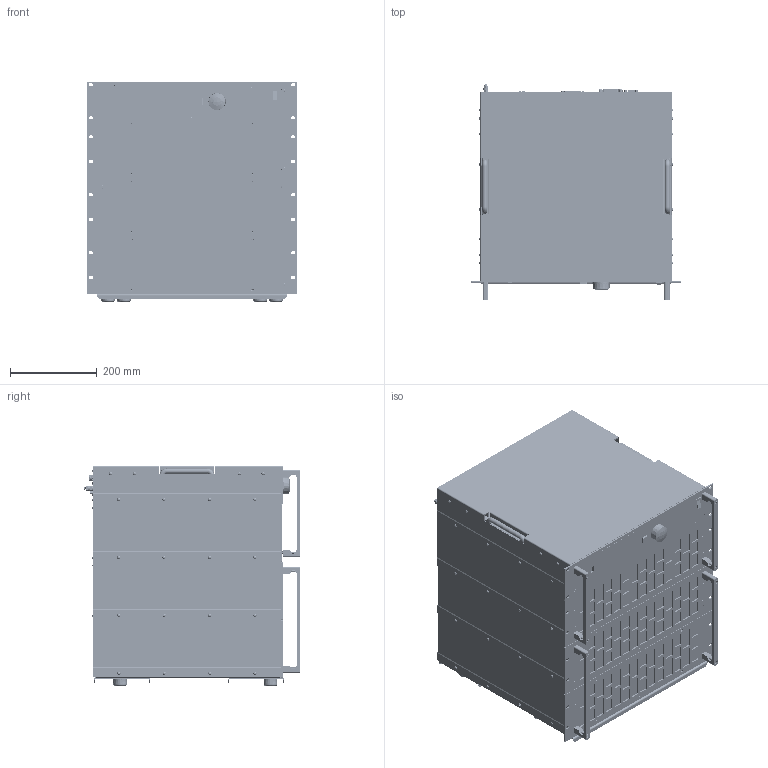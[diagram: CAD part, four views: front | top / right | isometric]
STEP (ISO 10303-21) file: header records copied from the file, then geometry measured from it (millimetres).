
FILE_DESCRIPTION(('STEP AP214'),'1');
FILE_NAME('ACL_M16_19Z_11HE_PH3_10.16-ST76_BRA_3D_02.step','2020-02-20T12:58:27',(' '),(' '),'Spatial InterOp 3D',' ',' ');
FILE_SCHEMA(('AUTOMOTIVE_DESIGN { 1 0 10303 214 1 1 1 1 }'));
Length unit declared in the file: millimetre
Products named in the file (21): 3158_5HE_ug-05_180; 3158_6HE_ug-05_224; *U338; *U339; *U340; *U341; *U342; *U343; *U344; *U345; 2078_ACL_IO Panel_02; 2085_ACL_Rückwand_Steuerteil_Single_Phase_mit_Druck_3D_02; *U376; *U326; *U327; *U328; *U332; *U333; *U334; AutoCreatedBlock_2134
Assembly tree (122 placements, depth 2):
  (unnamed)
    3158_5HE_ug-05_180  x2
    3158_6HE_ug-05_224  x2
    *U338  x2
    *U339
    *U340  x3
    *U341  x2
    *U342  x2
    *U343  x13
    *U344  x16
    *U345  x6
    2078_ACL_IO Panel_02
    2085_ACL_Rückwand_Steuerteil_Single_Phase_mit_Druck_3D_02
    *U376  x4
    *U326  x16
    *U327  x12
    *U328  x16
    *U332  x8
    *U333  x6
    *U334  x8
    AutoCreatedBlock_2134
Bounding box: 482.61 x 498.15 x 506.29 mm (x, y, z)
Volume: 87962980.6 mm3; surface area: 5230383.3 mm2
Topology: 286 solids, 408 shells, 21862 faces, 54976 edges, 34431 vertices
Faces by surface type: plane 10499, cone 7068, cylinder 3591, sphere 276, torus 211, bspline 190, extrusion 27
Entity records: 664336 total; most frequent: CARTESIAN_POINT 126127, DIRECTION 84443, ORIENTED_EDGE 82876, EDGE_CURVE 41679, VECTOR 30013, LINE 29986, AXIS2_PLACEMENT_3D 27215, VERTEX_POINT 26461
